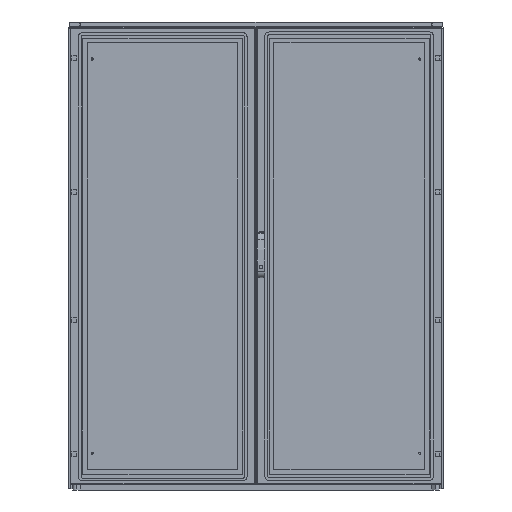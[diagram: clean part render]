
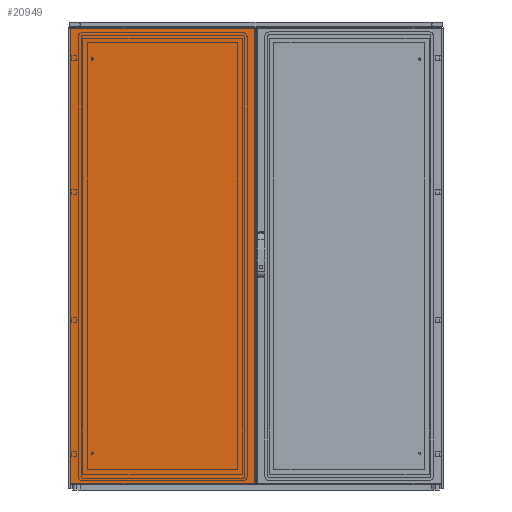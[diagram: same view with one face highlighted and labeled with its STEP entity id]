
A CAD part, front view. The second image highlights one B-rep face of the part: STEP entity #20949.
In plain terms, the highlighted planar face has unit normal (0, -1, 0).
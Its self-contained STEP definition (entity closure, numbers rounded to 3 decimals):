
#5497=ORIENTED_EDGE('',*,*,#9700,.T.);
#5498=ORIENTED_EDGE('',*,*,#9701,.T.);
#5499=ORIENTED_EDGE('',*,*,#9702,.T.);
#5500=ORIENTED_EDGE('',*,*,#9703,.T.);
#9700=EDGE_CURVE('',#12085,#12086,#14123,.F.);
#9701=EDGE_CURVE('',#12086,#12087,#14124,.F.);
#9702=EDGE_CURVE('',#12087,#12088,#14125,.F.);
#9703=EDGE_CURVE('',#12088,#12085,#14126,.F.);
#12085=VERTEX_POINT('',#34228);
#12086=VERTEX_POINT('',#34229);
#12087=VERTEX_POINT('',#34231);
#12088=VERTEX_POINT('',#34233);
#14123=LINE('',#34227,#16192);
#14124=LINE('',#34230,#16193);
#14125=LINE('',#34232,#16194);
#14126=LINE('',#34234,#16195);
#16192=VECTOR('',#27471,1000.);
#16193=VECTOR('',#27472,1000.);
#16194=VECTOR('',#27473,1000.);
#16195=VECTOR('',#27474,1000.);
#17719=EDGE_LOOP('',(#5497,#5498,#5499,#5500));
#19022=FACE_BOUND('',#17719,.T.);
#19950=PLANE('',#22793);
#20949=ADVANCED_FACE('',(#19022),#19950,.F.);
#22793=AXIS2_PLACEMENT_3D('',#34226,#27469,#27470);
#27469=DIRECTION('',(0.,1.,0.));
#27470=DIRECTION('',(0.,0.,1.));
#27471=DIRECTION('',(0.,0.,-1.));
#27472=DIRECTION('',(1.,0.,0.));
#27473=DIRECTION('',(0.,0.,1.));
#27474=DIRECTION('',(-1.,0.,0.));
#34226=CARTESIAN_POINT('',(0.,0.,0.));
#34227=CARTESIAN_POINT('',(394.5,0.,0.));
#34228=CARTESIAN_POINT('',(394.5,0.,-977.));
#34229=CARTESIAN_POINT('',(394.5,0.,977.));
#34230=CARTESIAN_POINT('',(0.,0.,977.));
#34231=CARTESIAN_POINT('',(-394.5,0.,977.));
#34232=CARTESIAN_POINT('',(-394.5,0.,0.));
#34233=CARTESIAN_POINT('',(-394.5,0.,-977.));
#34234=CARTESIAN_POINT('',(0.,0.,-977.));
